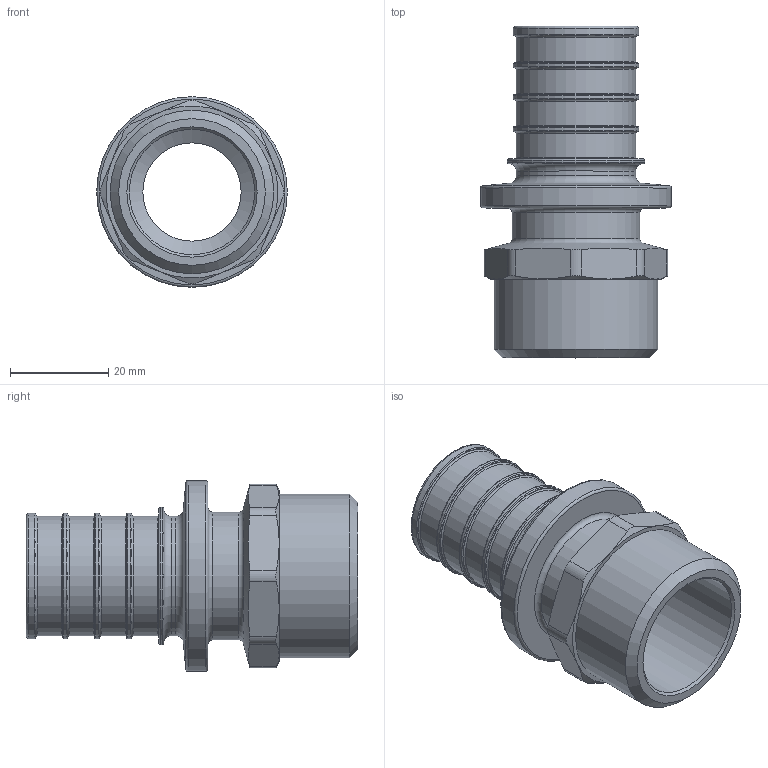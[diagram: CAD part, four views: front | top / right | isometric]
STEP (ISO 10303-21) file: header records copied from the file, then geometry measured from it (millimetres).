
FILE_DESCRIPTION(('STEP AP203'), '1');
FILE_NAME('ﾂﾐ.753137.036 - VTm.401.G.003206 ﾔ頸. 浯葢. G 1', '2024-01-23T13:02:22', ('Boss'), (''), 'C3D Converter', 'C3D Toolkit', '');
FILE_SCHEMA(('CONFIG_CONTROL_DESIGN'));
Length unit declared in the file: millimetre
Products named in the file (1): ВР.753137.036
Bounding box: 38.8 x 67.5 x 38.8 mm (x, y, z)
Volume: 20506.5 mm3; surface area: 13306.9 mm2
Topology: 1 solids, 1 shells, 79 faces, 163 edges, 96 vertices
Faces by surface type: torus 24, cylinder 23, plane 20, cone 12
Full cylindrical faces by diameter (mm): 20 x1, 24.3 x5, 25.5 x5, 26 x1, 27.9 x1, 33.249 x1, 38.8 x1
Entity records: 2660 total; most frequent: CARTESIAN_POINT 1204, DIRECTION 294, ORIENTED_EDGE 228, AXIS2_PLACEMENT_3D 139, EDGE_LOOP 134, EDGE_CURVE 114, VERTEX_POINT 94, FACE_OUTER_BOUND 87
